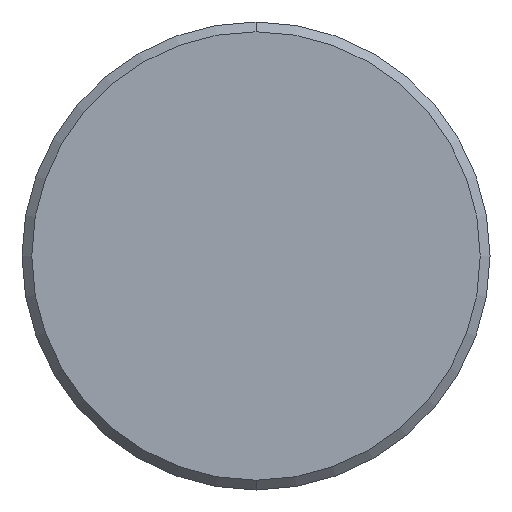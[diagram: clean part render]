
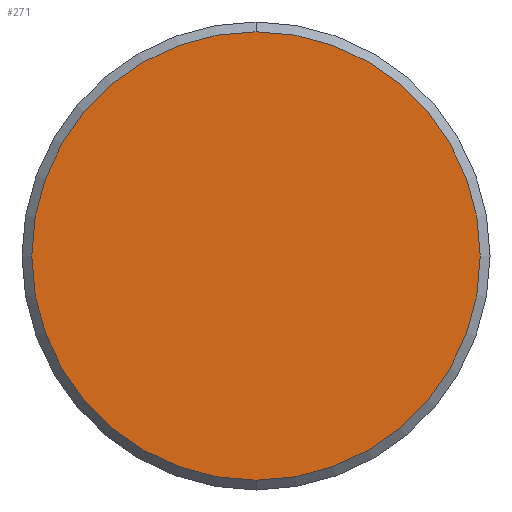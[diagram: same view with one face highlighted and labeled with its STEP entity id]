
A CAD part, front view. The second image highlights one B-rep face of the part: STEP entity #271.
In plain terms, the highlighted planar face has unit normal (0, -1, 0).
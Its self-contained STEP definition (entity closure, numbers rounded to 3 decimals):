
#19 = EDGE_LOOP ( 'NONE', ( #166, #223 ) ) ;
#26 = DIRECTION ( 'NONE',  ( 0., 0., 1. ) ) ;
#31 = AXIS2_PLACEMENT_3D ( 'NONE', #44, #248, #26 ) ;
#37 = VERTEX_POINT ( 'NONE', #255 ) ;
#44 = CARTESIAN_POINT ( 'NONE',  ( 0., 0., 0. ) ) ;
#60 = DIRECTION ( 'NONE',  ( 0., 0., 1. ) ) ;
#69 = CIRCLE ( 'NONE', #266, 2.875 ) ;
#72 = VERTEX_POINT ( 'NONE', #174 ) ;
#77 = CIRCLE ( 'NONE', #31, 2.875 ) ;
#86 = DIRECTION ( 'NONE',  ( 0., 0., 1. ) ) ;
#92 = FACE_OUTER_BOUND ( 'NONE', #19, .T. ) ;
#124 = EDGE_CURVE ( 'NONE', #37, #72, #69, .T. ) ;
#136 = EDGE_CURVE ( 'NONE', #72, #37, #77, .T. ) ;
#166 = ORIENTED_EDGE ( 'NONE', *, *, #124, .T. ) ;
#174 = CARTESIAN_POINT ( 'NONE',  ( 0., 0., -2.875 ) ) ;
#194 = DIRECTION ( 'NONE',  ( 0., -1., 0. ) ) ;
#216 = DIRECTION ( 'NONE',  ( 0., 1., 0. ) ) ;
#223 = ORIENTED_EDGE ( 'NONE', *, *, #136, .T. ) ;
#232 = CARTESIAN_POINT ( 'NONE',  ( 0., 0., 0. ) ) ;
#242 = AXIS2_PLACEMENT_3D ( 'NONE', #259, #216, #86 ) ;
#248 = DIRECTION ( 'NONE',  ( 0., -1., 0. ) ) ;
#255 = CARTESIAN_POINT ( 'NONE',  ( 0., 0., 2.875 ) ) ;
#257 = PLANE ( 'NONE',  #242 ) ;
#259 = CARTESIAN_POINT ( 'NONE',  ( 0., 0., 0. ) ) ;
#266 = AXIS2_PLACEMENT_3D ( 'NONE', #232, #194, #60 ) ;
#271 = ADVANCED_FACE ( 'NONE', ( #92 ), #257, .F. ) ;
